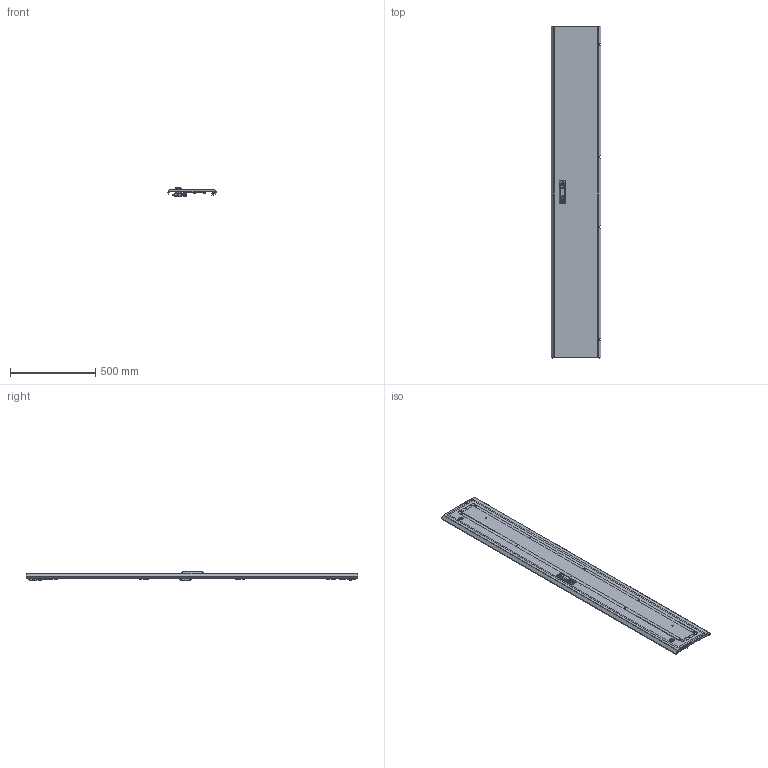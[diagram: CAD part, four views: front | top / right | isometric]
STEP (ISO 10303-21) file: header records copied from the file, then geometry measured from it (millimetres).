
FILE_DESCRIPTION (( 'STEP AP203' ), '1' );
FILE_NAME ('MA1.200.030620.30.00 AleSta-D20M300 Äâåðü ñïëîøíàÿ äëÿ øêàôîâ ALESTA ÂõØ 2000õ300.STEP', '2025-02-19T14:06:16', ( '' ), ( '' ), 'SwSTEP 2.0', 'SolidWorks 2021', '' );
FILE_SCHEMA (( 'CONFIG_CONTROL_DESIGN' ));
Length unit declared in the file: millimetre
Products named in the file (23): Óïëîòíèòåëü ïàíåëè íèæíåé_   ‚=2000; MA1.200.060620.31.06 赶鎀鍧_100 洵; Áîëò øåñòèãðàííûé Ì5õ12 DIN 933, êëàññ ïðî÷íîñòè 8.8, îöèíêîâàííàÿ ñòàëü; MA1.200.060620.31.02 Ðåéêà íà äâåðü âåðòèêàëüíàÿ Â = 2000_‚ =2000; Ãàéêà ñàìîêîíòðÿùàÿñÿ ñ íåéëîíîâîé âñòàâêîé Ì6 DIN 985, êëàññ ïðî÷íîñòè 8, îöèíêîâàííàÿ ñòàëü_Œ6; Âèíò_ðåçüáîâûäàâëèâàþùèé_Ì5õ12_DIN 7500E_Œ5å12; êðåïëåíèå_êðóãëîé_òÿãè_RG1020-1.stp; MS463-2-3(1); Îñü ïåòëè 4õ52_‚¨­â A.M4x0,5x40 ƒŽ‘’ 11644-75; MA1.200.060620.31.04 需沐朦_惃％; MA1.200.060620.31.03 Ðåéêà íà äâåðü ãîðèçîíòàëüíàÿ Ø = 600_˜=300; Âèíò ñàìîíàðåçàþùèé ñ ïîòàéíîé ãîëîâêîé Ì5x16 DIN 7500 M TORX, êëàññ ïðî÷íîñòè 8.8, îöèíêîâàííàÿ ñòàëü_Œ5å16; MA1.200.060620.31.05 Óãëîâîé óïîð äâåðíîé òÿãè; Íàâåñêà íà êîðïóñ ïîä êëåïêó; Øïèëüêà Ì6õ12_˜¯¨«ìª  Œ6å16; MA1.200.060620.31.00 Äâåðü ñïëîøíàÿ äëÿ øêàôîâ ALESTA ÂõØ 2000õ600_2000å300; MA1.200.060620.31.01 Ïîëîòíî äâåðè ñïëîøíîé 2000õ600_2000å300; äåðæàòåëü_êðóãëîé_òÿãèRG002-RG1010-2-i-RG1010-3-.stp; Øïèëüêà Ì6õ12_˜¯¨«ìª  Œ6å20; Ãàéêà ñàìîêîíòðÿùàÿñÿ ñ íåéëîíîâîé âñòàâêîé Ì6 DIN 985, êëàññ ïðî÷íîñòè 8, îöèíêîâàííàÿ ñòàëü_Œ5; òÿãà_lg001-2.STEP_‚=2000; MA1.200.030620.30.00 AleSta-D20M300 Äâåðü ñïëîøíàÿ äëÿ øêàôîâ ALESTA ÂõØ 2000õ300; 諘蜱齁罻 022 瀁錒瀔隮
Assembly tree (76 placements, depth 3):
  MA1.200.030620.30.00 AleSta-D20M300 Äâåðü ñïëîøíàÿ äëÿ øêàôîâ ALESTA ÂõØ 2000õ300
    MA1.200.060620.31.00 Äâåðü ñïëîøíàÿ äëÿ øêàôîâ ALESTA ÂõØ 2000õ600_2000å300
      MA1.200.060620.31.01 Ïîëîòíî äâåðè ñïëîøíîé 2000õ600_2000å300
      Óïëîòíèòåëü ïàíåëè íèæíåé_   ‚=2000
      Øïèëüêà Ì6õ12_˜¯¨«ìª  Œ6å20  x12
      Øïèëüêà Ì6õ12_˜¯¨«ìª  Œ6å16  x4
    MA1.200.060620.31.03 Ðåéêà íà äâåðü ãîðèçîíòàëüíàÿ Ø = 600_˜=300  x2
    諘蜱齁罻 022 瀁錒瀔隮  x4
    MA1.200.060620.31.02 Ðåéêà íà äâåðü âåðòèêàëüíàÿ Â = 2000_‚ =2000  x2
    äåðæàòåëü_êðóãëîé_òÿãèRG002-RG1010-2-i-RG1010-3-.stp  x2
    òÿãà_lg001-2.STEP_‚=2000  x2
    êðåïëåíèå_êðóãëîé_òÿãè_RG1020-1.stp  x2
    MS463-2-3(1)
    Ãàéêà ñàìîêîíòðÿùàÿñÿ ñ íåéëîíîâîé âñòàâêîé Ì6 DIN 985, êëàññ ïðî÷íîñòè 8, îöèíêîâàííàÿ ñòàëü_Œ6  x12
    Ãàéêà ñàìîêîíòðÿùàÿñÿ ñ íåéëîíîâîé âñòàâêîé Ì6 DIN 985, êëàññ ïðî÷íîñòè 8, îöèíêîâàííàÿ ñòàëü_Œ5  x2
    Áîëò øåñòèãðàííûé Ì5õ12 DIN 933, êëàññ ïðî÷íîñòè 8.8, îöèíêîâàííàÿ ñòàëü  x2
    MA1.200.060620.31.05 Óãëîâîé óïîð äâåðíîé òÿãè  x2
    Âèíò_ðåçüáîâûäàâëèâàþùèé_Ì5õ12_DIN 7500E_Œ5å12  x6
    Íàâåñêà íà êîðïóñ ïîä êëåïêó  x4
    Îñü ïåòëè 4õ52_‚¨­â A.M4x0,5x40 ƒŽ‘’ 11644-75  x4
    Âèíò ñàìîíàðåçàþùèé ñ ïîòàéíîé ãîëîâêîé Ì5x16 DIN 7500 M TORX, êëàññ ïðî÷íîñòè 8.8, îöèíêîâàííàÿ ñòàëü_Œ5å16  x8
    MA1.200.060620.31.04 需沐朦_惃％
    MA1.200.060620.31.06 赶鎀鍧_100 洵
Bounding box: 291.81 x 1945 x 55.29 mm (x, y, z)
Volume: 1721673.3 mm3; surface area: 2009994.2 mm2
Topology: 110 solids, 124 shells, 5801 faces, 14416 edges, 8820 vertices
Faces by surface type: plane 2369, cylinder 2271, bspline 613, cone 253, torus 197, sphere 98
Entity records: 138122 total; most frequent: CARTESIAN_POINT 58624, ORIENTED_EDGE 16122, DIRECTION 15089, EDGE_CURVE 8078, AXIS2_PLACEMENT_3D 5375, VERTEX_POINT 5044, LINE 4339, VECTOR 4339
